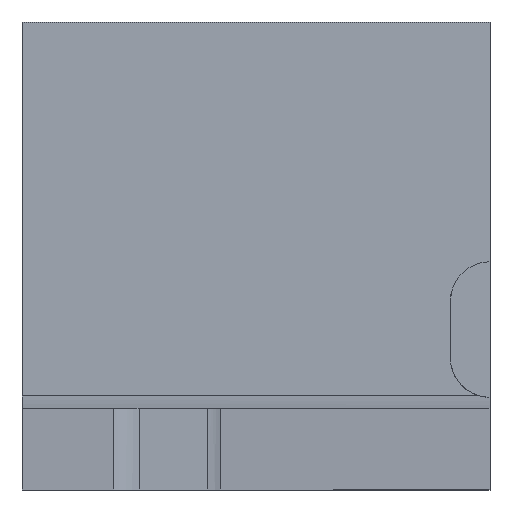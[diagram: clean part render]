
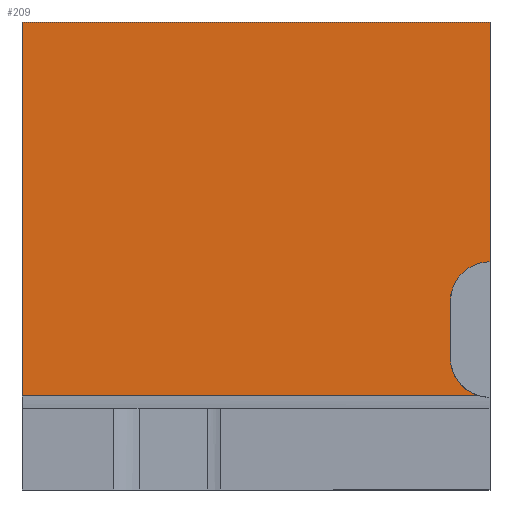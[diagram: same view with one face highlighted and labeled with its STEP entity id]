
A CAD part, left-side view. The second image highlights one B-rep face of the part: STEP entity #209.
In plain terms, the highlighted planar face has unit normal (-1, 0, 0).
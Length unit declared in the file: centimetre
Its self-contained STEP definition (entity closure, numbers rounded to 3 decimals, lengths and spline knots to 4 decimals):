
#7 = VERTEX_POINT ( 'NONE', #1393 ) ;
#70 = ORIENTED_EDGE ( 'NONE', *, *, #278, .F. ) ;
#73 = CARTESIAN_POINT ( 'NONE',  ( 0., 1000., 1000. ) ) ;
#97 = LINE ( 'NONE', #1161, #99 ) ;
#99 = VECTOR ( 'NONE', #641, 100. ) ;
#108 = LINE ( 'NONE', #1180, #325 ) ;
#145 = VERTEX_POINT ( 'NONE', #1453 ) ;
#175 = CARTESIAN_POINT ( 'NONE',  ( 0., 0., 1000. ) ) ;
#205 = VECTOR ( 'NONE', #1448, 100. ) ;
#209 = ADVANCED_FACE ( 'NONE', ( #775 ), #1304, .F. ) ;
#278 = EDGE_CURVE ( 'NONE', #145, #7, #1308, .T. ) ;
#311 = DIRECTION ( 'NONE',  ( -1., 0., 0. ) ) ;
#313 = DIRECTION ( 'NONE',  ( 0., 0., 1. ) ) ;
#325 = VECTOR ( 'NONE', #1709, 100. ) ;
#410 = EDGE_CURVE ( 'NONE', #1571, #1426, #620, .T. ) ;
#431 = AXIS2_PLACEMENT_3D ( 'NONE', #1509, #311, #853 ) ;
#510 = CARTESIAN_POINT ( 'NONE',  ( 0., 84.9057, 402.7493 ) ) ;
#519 = CARTESIAN_POINT ( 'NONE',  ( 0., 1000., 1000. ) ) ;
#544 = EDGE_CURVE ( 'NONE', #1595, #145, #1195, .T. ) ;
#549 = ORIENTED_EDGE ( 'NONE', *, *, #544, .F. ) ;
#605 = DIRECTION ( 'NONE',  ( -1., 0., 0. ) ) ;
#620 = LINE ( 'NONE', #1545, #205 ) ;
#641 = DIRECTION ( 'NONE',  ( 0., -1., 0. ) ) ;
#659 = ORIENTED_EDGE ( 'NONE', *, *, #941, .F. ) ;
#689 = VECTOR ( 'NONE', #956, 100. ) ;
#706 = CARTESIAN_POINT ( 'NONE',  ( 0., 1000., 200.8655 ) ) ;
#723 = AXIS2_PLACEMENT_3D ( 'NONE', #519, #1572, #1658 ) ;
#734 = ORIENTED_EDGE ( 'NONE', *, *, #1045, .T. ) ;
#744 = CARTESIAN_POINT ( 'NONE',  ( 0., 84.9057, 282.8383 ) ) ;
#775 = FACE_OUTER_BOUND ( 'NONE', #843, .T. ) ;
#843 = EDGE_LOOP ( 'NONE', ( #734, #659, #1193, #70, #549, #1007, #1655 ) ) ;
#853 = DIRECTION ( 'NONE',  ( 0., 0., 1. ) ) ;
#921 = DIRECTION ( 'NONE',  ( 0., 0., -1. ) ) ;
#941 = EDGE_CURVE ( 'NONE', #1516, #1431, #1335, .T. ) ;
#956 = DIRECTION ( 'NONE',  ( 0., 0., -1. ) ) ;
#992 = VECTOR ( 'NONE', #921, 100. ) ;
#1007 = ORIENTED_EDGE ( 'NONE', *, *, #1088, .F. ) ;
#1045 = EDGE_CURVE ( 'NONE', #1426, #1431, #97, .T. ) ;
#1088 = EDGE_CURVE ( 'NONE', #1571, #1595, #108, .T. ) ;
#1112 = AXIS2_PLACEMENT_3D ( 'NONE', #1128, #605, #313 ) ;
#1128 = CARTESIAN_POINT ( 'NONE',  ( 0., 0., 282.8383 ) ) ;
#1161 = CARTESIAN_POINT ( 'NONE',  ( 0., 1000., 200.8655 ) ) ;
#1180 = CARTESIAN_POINT ( 'NONE',  ( 0., 1000., 1000. ) ) ;
#1193 = ORIENTED_EDGE ( 'NONE', *, *, #1328, .F. ) ;
#1195 = LINE ( 'NONE', #1336, #689 ) ;
#1239 = CARTESIAN_POINT ( 'NONE',  ( 0., 22.1231, 200.8655 ) ) ;
#1304 = PLANE ( 'NONE',  #723 ) ;
#1308 = CIRCLE ( 'NONE', #431, 84.9057 ) ;
#1328 = EDGE_CURVE ( 'NONE', #7, #1516, #1343, .T. ) ;
#1335 = CIRCLE ( 'NONE', #1112, 84.9057 ) ;
#1336 = CARTESIAN_POINT ( 'NONE',  ( 0., 0., 1000. ) ) ;
#1343 = LINE ( 'NONE', #510, #992 ) ;
#1393 = CARTESIAN_POINT ( 'NONE',  ( 0., 84.9057, 402.7493 ) ) ;
#1426 = VERTEX_POINT ( 'NONE', #706 ) ;
#1431 = VERTEX_POINT ( 'NONE', #1239 ) ;
#1448 = DIRECTION ( 'NONE',  ( 0., 0., -1. ) ) ;
#1453 = CARTESIAN_POINT ( 'NONE',  ( 0., 0., 487.6549 ) ) ;
#1509 = CARTESIAN_POINT ( 'NONE',  ( 0., 0., 402.7493 ) ) ;
#1516 = VERTEX_POINT ( 'NONE', #744 ) ;
#1545 = CARTESIAN_POINT ( 'NONE',  ( 0., 1000., 1000. ) ) ;
#1571 = VERTEX_POINT ( 'NONE', #73 ) ;
#1572 = DIRECTION ( 'NONE',  ( 1., 0., 0. ) ) ;
#1595 = VERTEX_POINT ( 'NONE', #175 ) ;
#1655 = ORIENTED_EDGE ( 'NONE', *, *, #410, .T. ) ;
#1658 = DIRECTION ( 'NONE',  ( 0., 0., -1. ) ) ;
#1709 = DIRECTION ( 'NONE',  ( 0., -1., 0. ) ) ;
